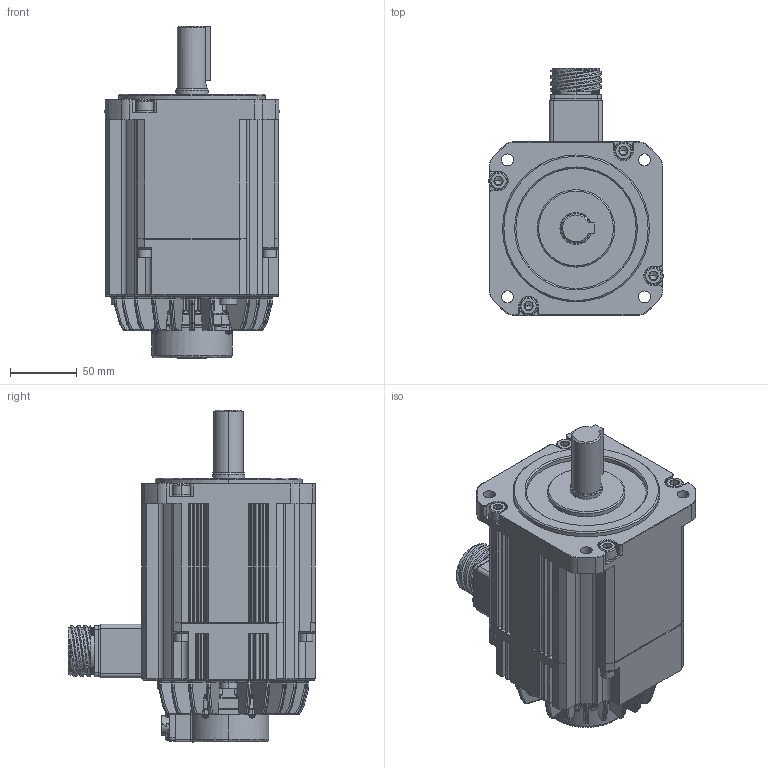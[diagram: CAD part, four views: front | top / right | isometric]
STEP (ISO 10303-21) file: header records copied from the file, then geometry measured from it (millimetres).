
FILE_DESCRIPTION (( 'STEP AP203' ), '1' );
FILE_NAME ('TSM3506N7374E721‘•”z.STEP', '2018-06-26T06:57:47', ( '' ), ( '' ), 'SwSTEP 2.0', 'SolidWorks 2017', '' );
FILE_SCHEMA (( 'CONFIG_CONTROL_DESIGN' ));
Products named in the file (2): Part14^TSM3506N7374E721装配; TSM3506N7374E721装配
Assembly tree (1 placements, depth 2):
  TSM3506N7374E721装配
    Part14^TSM3506N7374E721装配
Bounding box: 130.5 x 185.2 x 248.5 mm (x, y, z)
Volume: 2452034.5 mm3; surface area: 178169.2 mm2
Topology: 1 solids, 24 shells, 3237 faces, 8129 edges, 4944 vertices
Faces by surface type: bspline 1088, plane 1061, cylinder 829, cone 259
Entity records: 158426 total; most frequent: CARTESIAN_POINT 89625, ORIENTED_EDGE 16048, DIRECTION 11664, EDGE_CURVE 8024, VERTEX_POINT 4944, AXIS2_PLACEMENT_3D 3998, LINE 3668, VECTOR 3668
